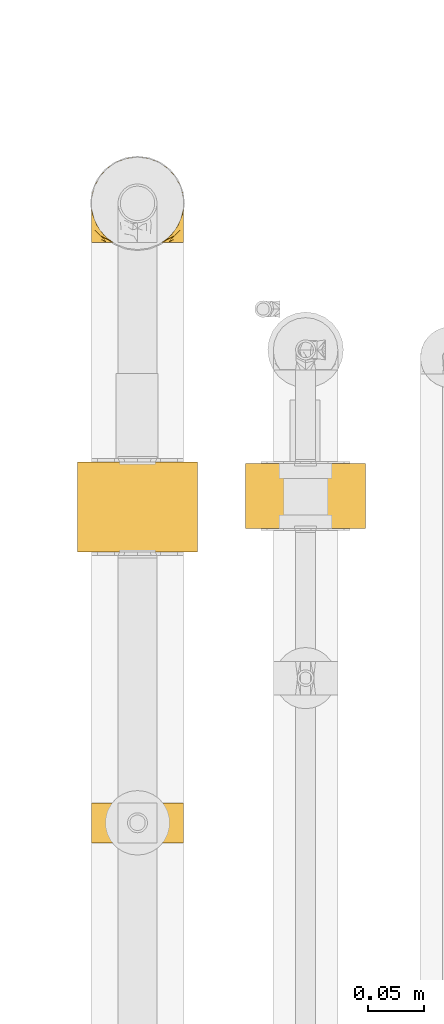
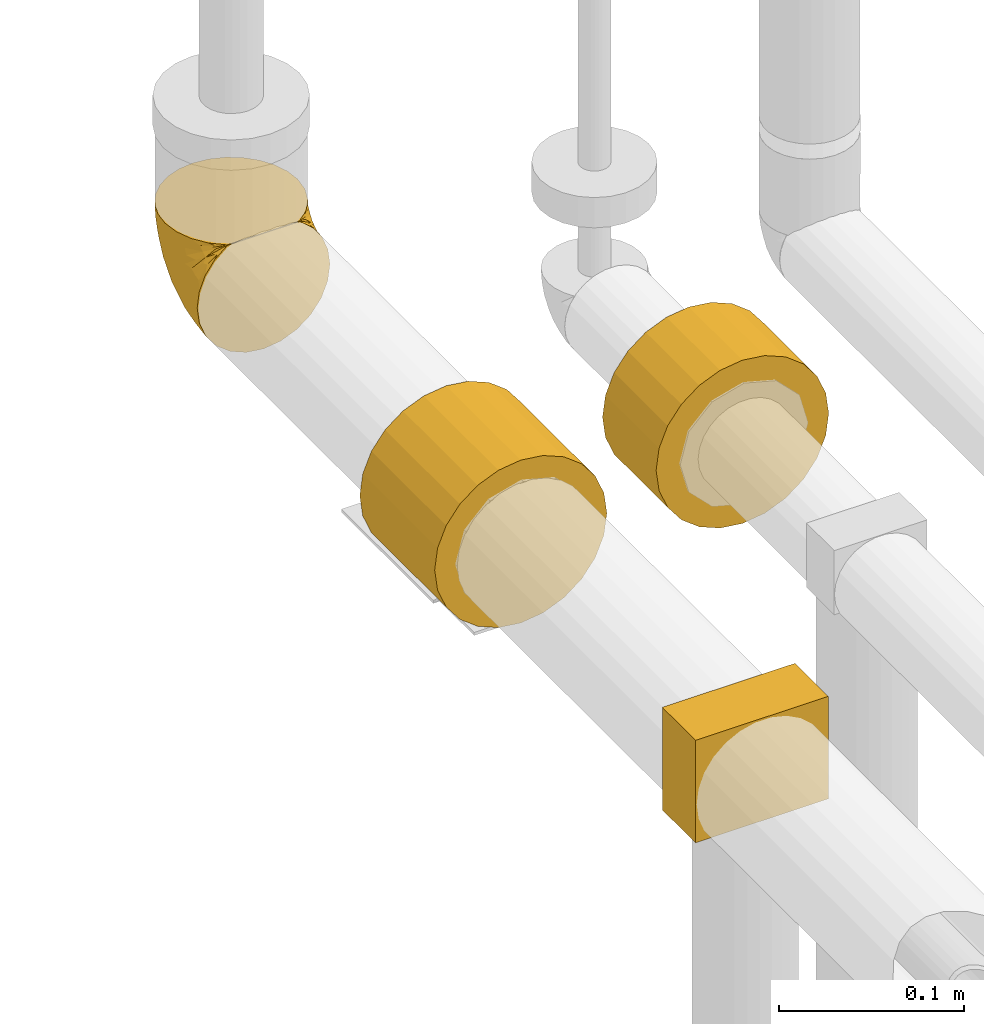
# One storey, part 9 of 78: 4 coverings.
"""IFC2X3 building model written with IfcOpenShell, lengths in millimetres."""

from ifc_helpers import new_model, entity, si_unit, converted_unit, derived_unit, direction, frame, origin_with_axes, place, context, subcontext, project, spatial, open_shell, surface_model, source, transform, mapped, element, save


model = new_model("IFC2X3")

# Units and contexts
model_context = context("Model", 3, precision=0.01, world=frame((0.0, 4.29681676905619e-09, 0.0)), true_north=direction((4.01073788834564e-13, 1.0)))
plan_context = context("Plan", 3, precision=0.01, world=frame((0.0, 4.29681676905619e-09, 0.0)), true_north=direction((4.01073788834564e-13, 1.0)))
body_context = subcontext(model_context, "Body", "Model", "MODEL_VIEW")
ifc_project = project(units=[converted_unit("PLANEANGLEUNIT", "DEGREE", entity("IfcPositiveLengthMeasure", 0.0174532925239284), si_unit("PLANEANGLEUNIT", "RADIAN"), dimensions=[0, 0, 0, 0, 0, 0, 0]), si_unit("AREAUNIT", "SQUARE_METRE"), si_unit("LENGTHUNIT", "METRE", prefix="MILLI"), si_unit("MASSUNIT", "GRAM", prefix="KILO"), si_unit("POWERUNIT", "WATT"), si_unit("PRESSUREUNIT", "PASCAL"), si_unit("FORCEUNIT", "NEWTON", prefix="KILO"), si_unit("ELECTRICVOLTAGEUNIT", "VOLT"), si_unit("ELECTRICCURRENTUNIT", "AMPERE"), si_unit("THERMODYNAMICTEMPERATUREUNIT", "DEGREE_CELSIUS"), si_unit("TIMEUNIT", "SECOND"), si_unit("VOLUMEUNIT", "CUBIC_METRE"), derived_unit("LINEARVELOCITYUNIT", [(si_unit("LENGTHUNIT", "METRE"), 1), (si_unit("TIMEUNIT", "SECOND"), -1)]), derived_unit("VOLUMETRICFLOWRATEUNIT", [(si_unit("VOLUMEUNIT", "CUBIC_METRE"), 1), (si_unit("TIMEUNIT", "SECOND"), -1)]), derived_unit("THERMALTRANSMITTANCEUNIT", [(si_unit("POWERUNIT", "WATT"), 1), (si_unit("THERMODYNAMICTEMPERATUREUNIT", "KELVIN"), -1), (si_unit("AREAUNIT", "SQUARE_METRE"), -1)]), derived_unit("SOUNDPRESSUREUNIT", [(si_unit("PRESSUREUNIT", "PASCAL"), 1)])], contexts=[model_context, plan_context])

# Site, building, storey
site_placement = place(None, frame((0.0, -4.29681676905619e-09, 0.0), z_axis=(0.0, 0.0, 1.0), x_axis=(1.0, 0.0, 0.0)))
site = spatial("IfcSite", under=ifc_project, at=site_placement, Name="ENGM", CompositionType="ELEMENT")
building_placement = place(site_placement, frame((0.0, 4.29681676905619e-09, 0.0), z_axis=(0.0, 0.0, 1.0), x_axis=(1.0, 0.0, 0.0)))
building = spatial("IfcBuilding", under=site, at=building_placement, Name="TH", CompositionType="ELEMENT")
storey_placement = place(building_placement, frame((0.0, 0.0, 205200.0), z_axis=(0.0, 0.0, 1.0), x_axis=(1.0, 0.0, 0.0)))
storey = spatial("IfcBuildingStorey", under=building, at=storey_placement, Name="Nivå D + 1,2 m", CompositionType="ELEMENT", Elevation=205200.0)

# Coverings
shared_shape_1 = source(origin_with_axes(), body_context, "Body", "SurfaceModel", [
    surface_model("IfcShellBasedSurfaceModel", [(-29.0, 13.9607, 52.10204), (-29.0, -13.9607, 52.10204), (-29.0, 0.0, 53.94), (-29.0, 38.14134, 38.14134), (-29.0, 26.97, 46.71341), (-29.0, 46.71341, 26.97), (-29.0, 53.94, 0.0), (-29.0, -38.14134, 38.14134), (-29.0, -26.97, 46.71341), (-29.0, -53.94, 0.0), (-29.0, -52.10204, -13.9607), (-29.0, -52.10204, 13.9607), (-29.0, -46.71341, 26.97), (-29.0, 52.10204, 13.9607), (-29.0, 52.10204, -13.9607), (-29.0, 46.71341, -26.97), (-29.0, 26.97, -46.71341), (-29.0, 13.9607, -52.10204), (-29.0, 38.14134, -38.14134), (-29.0, 0.0, -53.94), (-29.0, -46.71341, -26.97), (-29.0, -26.97, -46.71341), (-29.0, -38.14134, -38.14134), (-29.0, -13.9607, -52.10204), (-14.2, 53.94, 0.0), (13.0, 52.10204, 13.9607), (13.0, 46.71341, 26.97), (13.0, 53.94, 0.0), (13.0, 38.14134, 38.14134), (13.0, 26.97, 46.71341), (-14.2, 0.0, 53.94), (13.0, 13.9607, 52.10204), (13.0, 0.0, 53.94), (13.0, -13.9607, 52.10204), (13.0, -26.97, 46.71341), (13.0, -38.14134, 38.14134), (13.0, -46.71341, 26.97), (-14.2, -53.94, 0.0), (13.0, -52.10204, 13.9607), (13.0, -53.94, 0.0), (13.0, -52.10204, -13.9607), (13.0, -46.71341, -26.97), (13.0, -38.14134, -38.14134), (13.0, -26.97, -46.71341), (13.0, -13.9607, -52.10204), (-14.2, 0.0, -53.94), (13.0, 0.0, -53.94), (13.0, 13.9607, -52.10204), (13.0, 26.97, -46.71341), (13.0, 38.14134, -38.14134), (13.0, 46.71341, -26.97), (13.0, 52.10204, -13.9607), (29.0, -13.9607, 52.10204), (29.0, 13.9607, 52.10204), (29.0, 0.0, 53.94), (29.0, -38.14134, 38.14134), (29.0, -26.97, 46.71341), (29.0, -46.71341, 26.97), (29.0, -53.94, 0.0), (29.0, 38.14134, 38.14134), (29.0, 26.97, 46.71341), (29.0, 53.94, 0.0), (29.0, 52.10204, -13.9607), (29.0, 52.10204, 13.9607), (29.0, 46.71341, 26.97), (29.0, -52.10204, 13.9607), (29.0, -52.10204, -13.9607), (29.0, -46.71341, -26.97), (29.0, -26.97, -46.71341), (29.0, -13.9607, -52.10204), (29.0, -38.14134, -38.14134), (29.0, 0.0, -53.94), (29.0, 46.71341, -26.97), (29.0, 26.97, -46.71341), (29.0, 38.14134, -38.14134), (29.0, 13.9607, -52.10204)], [open_shell([[[0, 1, 2]], [[3, 0, 4]], [[5, 1, 3]], [[3, 1, 0]], [[5, 6, 1]], [[1, 7, 8]], [[9, 7, 10]], [[7, 11, 12]], [[11, 7, 9]], [[10, 7, 1]], [[5, 13, 6]], [[6, 14, 15]], [[10, 6, 15]], [[16, 17, 15]], [[16, 15, 18]], [[19, 15, 17]], [[20, 21, 22]], [[21, 20, 10]], [[10, 23, 21]], [[10, 15, 23]], [[15, 19, 23]], [[6, 10, 1]], [[24, 6, 13]], [[24, 13, 25]], [[26, 13, 5]], [[27, 24, 25]], [[25, 13, 26]], [[5, 28, 26]], [[5, 3, 28]], [[29, 3, 4]], [[29, 4, 0]], [[30, 0, 2]], [[29, 0, 31]], [[30, 32, 31]], [[0, 30, 31]], [[3, 29, 28]], [[30, 2, 1]], [[30, 1, 33]], [[34, 1, 8]], [[32, 30, 33]], [[34, 33, 1]], [[35, 34, 8]], [[8, 7, 35]], [[12, 36, 35]], [[12, 11, 36]], [[37, 11, 9]], [[36, 11, 38]], [[37, 39, 38]], [[11, 37, 38]], [[12, 35, 7]], [[37, 9, 10]], [[37, 10, 40]], [[41, 10, 20]], [[39, 37, 40]], [[41, 40, 10]], [[42, 41, 20]], [[20, 22, 42]], [[21, 43, 42]], [[21, 23, 44]], [[45, 23, 19]], [[43, 21, 44]], [[45, 46, 44]], [[23, 45, 44]], [[21, 42, 22]], [[45, 19, 17]], [[45, 17, 47]], [[48, 17, 16]], [[46, 45, 47]], [[48, 47, 17]], [[49, 48, 16]], [[16, 18, 49]], [[18, 15, 50]], [[14, 6, 24]], [[15, 14, 51]], [[50, 15, 51]], [[24, 27, 51]], [[14, 24, 51]], [[18, 50, 49]], [[52, 53, 54]], [[55, 52, 56]], [[57, 53, 55]], [[55, 53, 52]], [[57, 58, 53]], [[53, 59, 60]], [[61, 59, 62]], [[59, 63, 64]], [[63, 59, 61]], [[62, 59, 53]], [[57, 65, 58]], [[58, 66, 67]], [[62, 58, 67]], [[68, 69, 67]], [[68, 67, 70]], [[71, 67, 69]], [[72, 73, 74]], [[73, 72, 62]], [[62, 75, 73]], [[62, 67, 75]], [[67, 71, 75]], [[58, 62, 53]], [[38, 58, 65]], [[36, 65, 57]], [[39, 58, 38]], [[36, 38, 65]], [[35, 36, 57]], [[57, 55, 35]], [[34, 55, 56]], [[33, 56, 52]], [[34, 56, 33]], [[32, 33, 52]], [[54, 32, 52]], [[55, 34, 35]], [[31, 54, 53]], [[29, 53, 60]], [[32, 54, 31]], [[29, 31, 53]], [[28, 29, 60]], [[60, 59, 28]], [[26, 59, 64]], [[25, 64, 63]], [[26, 64, 25]], [[27, 25, 63]], [[61, 27, 63]], [[59, 26, 28]], [[51, 61, 62]], [[50, 62, 72]], [[27, 61, 51]], [[50, 51, 62]], [[49, 50, 72]], [[72, 74, 49]], [[48, 74, 73]], [[47, 73, 75]], [[48, 73, 47]], [[46, 47, 75]], [[71, 46, 75]], [[74, 48, 49]], [[44, 71, 69]], [[43, 69, 68]], [[46, 71, 44]], [[43, 44, 69]], [[42, 43, 68]], [[68, 70, 42]], [[41, 70, 67]], [[40, 67, 66]], [[41, 67, 40]], [[39, 40, 66]], [[58, 39, 66]], [[70, 41, 42]]])]),
])
covering_1_placement = place(storey_placement, frame((895520.48466, 478417.98509, 4450.0), z_axis=(0.0, 3.999999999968e-06, -0.999999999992), x_axis=(0.0, 0.999999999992, 3.999999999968e-06)))
element("IfcCovering", 1, at=covering_1_placement, inside=storey, Name="Rørskål m/Al.folje - Varme 55 (uisolert oppheng)", PredefinedType="INSULATION", context=body_context, shape_type="MappedRepresentation", body=[
    mapped(shared_shape_1, transform((0.0, 0.0, 0.0), scale=1.0)),
])
shared_shape_2 = source(origin_with_axes(), body_context, "Body", "SurfaceModel", [
    surface_model("IfcShellBasedSurfaceModel", [(-40.5, 13.92964, 51.98613), (-40.5, -13.92964, 51.98613), (-40.5, 0.0, 53.82), (-40.5, 51.98613, 13.92964), (-40.5, 26.91, 46.60949), (-40.5, 38.05649, 38.05649), (-40.5, 46.60949, 26.91), (-40.5, -26.91, 46.60949), (-40.5, -51.98613, 13.92964), (-40.5, -38.05649, 38.05649), (-40.5, -46.60949, 26.91), (-40.5, -51.98613, -13.92964), (-40.5, -53.82, 0.0), (-40.5, 51.98613, -13.92964), (-40.5, -13.92964, -51.98613), (-40.5, 53.82, 0.0), (-40.5, 13.92964, -51.98613), (-40.5, 46.60949, -26.91), (-40.5, 26.91, -46.60949), (-40.5, 38.05649, -38.05649), (-40.5, 0.0, -53.82), (-40.5, -38.05649, -38.05649), (-40.5, -46.60949, -26.91), (-40.5, -26.91, -46.60949), (-1.1, 53.82, 0.0), (-0.5, 51.98613, 13.92964), (-0.5, 46.60949, 26.91), (-0.5, 53.82, 0.0), (-0.5, 38.05649, 38.05649), (-0.5, 26.91, 46.60949), (-1.1, 0.0, 53.82), (-0.5, 13.92964, 51.98613), (-0.5, 0.0, 53.82), (-0.5, -13.92964, 51.98613), (-0.5, -26.91, 46.60949), (-0.5, -38.05649, 38.05649), (-0.5, -46.60949, 26.91), (-0.5, -51.98613, 13.92964), (-1.1, -53.82, 0.0), (-0.5, -53.82, 0.0), (-0.5, -51.98613, -13.92964), (-0.5, -46.60949, -26.91), (-0.5, -38.05649, -38.05649), (-0.5, -26.91, -46.60949), (-1.1, 0.0, -53.82), (-0.5, -13.92964, -51.98613), (-0.5, 0.0, -53.82), (-0.5, 13.92964, -51.98613), (-0.5, 26.91, -46.60949), (-0.5, 38.05649, -38.05649), (-0.5, 46.60949, -26.91), (-0.5, 51.98613, -13.92964), (40.5, -13.92964, 51.98613), (40.5, 13.92964, 51.98613), (40.5, 0.0, 53.82), (40.5, -51.98613, 13.92964), (40.5, -26.91, 46.60949), (40.5, -38.05649, 38.05649), (40.5, -46.60949, 26.91), (40.5, 26.91, 46.60949), (40.5, 51.98613, 13.92964), (40.5, 38.05649, 38.05649), (40.5, 46.60949, 26.91), (40.5, 51.98613, -13.92964), (40.5, 53.82, 0.0), (40.5, -51.98613, -13.92964), (40.5, 13.92964, -51.98613), (40.5, -53.82, 0.0), (40.5, -13.92964, -51.98613), (40.5, -46.60949, -26.91), (40.5, -26.91, -46.60949), (40.5, -38.05649, -38.05649), (40.5, 0.0, -53.82), (40.5, 38.05649, -38.05649), (40.5, 46.60949, -26.91), (40.5, 26.91, -46.60949)], [open_shell([[[0, 1, 2]], [[3, 0, 4]], [[5, 6, 3]], [[5, 3, 4]], [[1, 0, 3]], [[7, 8, 9]], [[8, 7, 1]], [[9, 8, 10]], [[1, 3, 8]], [[8, 11, 12]], [[8, 3, 11]], [[13, 14, 15]], [[16, 13, 17]], [[18, 16, 17]], [[18, 17, 19]], [[20, 13, 16]], [[11, 21, 22]], [[21, 11, 23]], [[15, 23, 11]], [[15, 14, 23]], [[13, 20, 14]], [[15, 11, 3]], [[24, 15, 3]], [[24, 3, 25]], [[26, 3, 6]], [[27, 24, 25]], [[26, 25, 3]], [[28, 26, 6]], [[6, 5, 28]], [[29, 5, 4]], [[4, 0, 29]], [[2, 30, 0]], [[29, 0, 31]], [[30, 32, 31]], [[0, 30, 31]], [[5, 29, 28]], [[30, 2, 1]], [[30, 1, 33]], [[34, 1, 7]], [[32, 30, 33]], [[34, 33, 1]], [[35, 34, 7]], [[7, 9, 35]], [[10, 36, 35]], [[10, 8, 37]], [[38, 8, 12]], [[36, 10, 37]], [[38, 39, 37]], [[8, 38, 37]], [[10, 35, 9]], [[38, 12, 11]], [[38, 11, 40]], [[41, 11, 22]], [[39, 38, 40]], [[41, 40, 11]], [[42, 41, 22]], [[22, 21, 42]], [[43, 21, 23]], [[14, 20, 44]], [[43, 23, 14]], [[43, 14, 45]], [[44, 46, 45]], [[14, 44, 45]], [[21, 43, 42]], [[44, 20, 16]], [[44, 16, 47]], [[48, 16, 18]], [[46, 44, 47]], [[48, 47, 16]], [[49, 48, 18]], [[18, 19, 49]], [[50, 19, 17]], [[13, 15, 24]], [[51, 17, 13]], [[50, 17, 51]], [[24, 27, 51]], [[13, 24, 51]], [[19, 50, 49]], [[52, 53, 54]], [[55, 52, 56]], [[57, 58, 55]], [[57, 55, 56]], [[53, 52, 55]], [[59, 60, 61]], [[60, 59, 53]], [[61, 60, 62]], [[53, 55, 60]], [[60, 63, 64]], [[60, 55, 63]], [[65, 66, 67]], [[68, 65, 69]], [[70, 68, 69]], [[70, 69, 71]], [[72, 65, 68]], [[63, 73, 74]], [[73, 63, 75]], [[67, 75, 63]], [[67, 66, 75]], [[65, 72, 66]], [[67, 63, 55]], [[37, 67, 55]], [[36, 55, 58]], [[39, 67, 37]], [[36, 37, 55]], [[35, 36, 58]], [[58, 57, 35]], [[34, 56, 52]], [[33, 52, 54]], [[57, 34, 35]], [[57, 56, 34]], [[34, 52, 33]], [[54, 32, 33]], [[31, 54, 53]], [[29, 53, 59]], [[32, 54, 31]], [[29, 31, 53]], [[28, 29, 59]], [[59, 61, 28]], [[60, 64, 25]], [[26, 28, 62]], [[62, 60, 26]], [[26, 60, 25]], [[64, 27, 25]], [[62, 28, 61]], [[51, 64, 63]], [[50, 63, 74]], [[27, 64, 51]], [[50, 51, 63]], [[49, 50, 74]], [[74, 73, 49]], [[66, 72, 47]], [[48, 75, 47]], [[75, 48, 73]], [[47, 75, 66]], [[72, 46, 47]], [[73, 48, 49]], [[45, 72, 68]], [[43, 68, 70]], [[46, 72, 45]], [[43, 45, 68]], [[42, 43, 70]], [[70, 71, 42]], [[71, 69, 41]], [[41, 65, 40]], [[65, 41, 69]], [[39, 40, 65]], [[65, 67, 39]], [[71, 41, 42]]])]),
])
covering_2_placement = place(storey_placement, frame((895369.5, 478407.95641, 4450.0), z_axis=(0.0, 3.999999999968e-06, -0.999999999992), x_axis=(0.0, 0.999999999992, 3.999999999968e-06)))
element("IfcCovering", 2, at=covering_2_placement, inside=storey, Name="BI20T - Cellegummi 13 mm kalde rør", PredefinedType="INSULATION", context=body_context, shape_type="MappedRepresentation", body=[
    mapped(shared_shape_2, transform((0.0, 0.0, 0.0), scale=1.0)),
])
shared_shape_3 = source(origin_with_axes(), body_context, "Body", "SurfaceModel", [
    surface_model("IfcShellBasedSurfaceModel", [(-18.0, 41.5, 41.5), (18.0, 41.5, 41.5), (-18.0, 41.5, -41.5), (18.0, 41.5, -41.5), (-18.0, -26.25, -41.5), (18.0, -26.25, -41.5), (-18.0, -26.25, 41.5), (18.0, -26.25, 41.5)], [open_shell([[[0, 1, 2]], [[3, 2, 1]], [[4, 5, 6]], [[7, 6, 5]], [[3, 1, 7]], [[7, 5, 3]], [[2, 3, 4]], [[5, 4, 3]], [[0, 2, 4]], [[4, 6, 0]], [[1, 0, 7]], [[6, 7, 0]]])]),
])
covering_3_placement = place(storey_placement, frame((895369.5, 478124.37013, 4450.0), z_axis=(1.0, 0.0, 0.0), x_axis=(0.0, 1.0, 0.0)))
element("IfcCovering", 3, at=covering_3_placement, inside=storey, Name="BI20T - Cellegummi 13 mm kalde rør", PredefinedType="INSULATION", context=body_context, shape_type="MappedRepresentation", body=[
    mapped(shared_shape_3, transform((0.0, 0.0, 0.0), scale=1.0)),
])
shared_shape_4 = source(origin_with_axes(), body_context, "Body", "SurfaceModel", [
    surface_model("IfcShellBasedSurfaceModel", [(18.01272, 35.0, 37.38706), (25.88116, 35.0, 32.44096), (32.45082, 35.0, 25.86878), (-34.77526, 35.0, -22.64798), (-10.20341, 35.0, 40.22611), (37.3931, 35.0, 18.00017), (0.0, 35.0, 41.5), (9.23923, 35.0, 40.45845), (-28.14065, 35.0, 30.5017), (-19.77898, 35.0, 36.48345), (-34.77526, 35.0, 22.64798), (40.46071, 35.0, 9.22935), (40.45845, 35.0, -9.23923), (32.44096, 35.0, -25.88116), (37.38706, 35.0, -18.01272), (25.86878, 35.0, -32.45082), (9.22935, 35.0, -40.46071), (18.00017, 35.0, -37.3931), (-19.77754, 35.0, -36.48423), (-28.13945, 35.0, -30.50281), (-10.20182, 35.0, -40.22652), (0.0, 35.0, -41.5), (41.5, 35.0, 0.0), (-35.0, 34.77526, -22.64798), (-35.0, 28.14035, -30.50198), (-35.0, 19.77826, -36.48384), (-35.0, 10.20222, -40.22642), (-35.0, 0.0, -41.5), (-35.0, 34.77526, 22.64798), (-35.0, -10.74099, -40.08592), (-35.0, 19.77826, 36.48384), (-35.0, 28.14035, 30.50198), (-35.0, 10.20222, 40.22642), (-35.0, -10.74099, 40.08592), (-35.0, 0.0, 41.5), (-35.0, -20.75, -35.94006), (-35.0, -35.94006, -20.75), (-35.0, -29.34493, -29.34493), (-35.0, -40.08592, 10.74099), (-35.0, -40.08592, -10.74099), (-35.0, -29.34493, 29.34493), (-35.0, -20.75, 35.94006), (-35.0, -35.94006, 20.75), (-35.0, -41.5, 0.0), (-34.84109, 34.84109, 22.64798), (-34.84109, 34.84109, -22.64798), (-31.64421, 15.39167, -38.65283), (-32.30655, 24.48475, -33.75287), (-27.62803, 16.52293, -38.65283), (-22.66177, 11.06119, -40.70807), (-17.5, 4.68911, -41.5), (-26.25, 2.34456, -41.5), (-16.52233, 27.62799, -38.65305), (-26.67126, 29.31483, -33.18807), (-24.48391, 32.30643, -33.75347), (-29.83814, 24.09272, -34.588), (-32.60004, 29.67626, -29.5284), (-27.75569, 9.28145, -40.66547), (-2.34456, 26.25, -41.5), (-11.06069, 22.6619, -40.70815), (-9.28112, 27.75578, -40.66554), (-23.93214, 18.44385, -38.66122), (-18.82795, 18.80671, -39.69251), (-15.39109, 31.64418, -38.65305), (-34.10257, 30.40075, -28.34273), (-30.40041, 34.10249, -28.34311), (-30.11227, 32.79735, -29.04801), (-34.80064, 34.93873, -22.64798), (-24.63119, 23.87481, -36.47636), (-34.93873, 34.80064, -22.64798), (-29.35712, 27.14751, -32.8729), (-31.63032, 32.35902, -27.90361), (-34.82086, 34.88991, -22.64798), (-18.46359, 23.9286, -38.65558), (-11.09456, 11.09456, -41.5), (-4.68911, 17.5, -41.5), (-34.88991, 34.82086, -22.64798), (27.83677, -5.85141, -11.24085), (36.82171, 16.48761, -13.71224), (35.67679, 5.72472, 0.0), (-22.86743, -6.62496, -40.64984), (-14.33903, -3.37223, -40.60316), (-3.92502, -15.84833, -33.42878), (-8.75932, -27.65077, -25.2636), (-19.40263, -23.21017, -32.92416), (-15.52855, -12.00825, -38.341), (-26.16455, -15.10836, -38.341), (17.27298, 12.08954, -35.14288), (21.0321, 24.14836, -35.14288), (27.30336, 18.94255, -29.35053), (-2.77145, 6.24147, -40.683), (-1.79804, 28.28963, -41.5), (25.04903, -4.75857, -18.75896), (-12.84078, -37.47165, -7.67715), (-15.9244, -35.81683, -15.88136), (38.52278, 20.03254, 0.0), (-23.05874, -31.86627, -25.2636), (14.91792, -14.6542, -21.64481), (20.81681, -3.31546, -25.55024), (5.24732, 10.54563, -39.69862), (12.15981, 22.84564, -39.17315), (33.85562, 21.66517, -22.08583), (6.20615, -4.51621, -35.1312), (-2.6613, -2.55281, -38.86273), (24.37797, 7.43419, -28.18078), (29.23604, 6.84605, -22.08583), (19.0594, -16.23966, -12.77633), (-3.17391, -30.78008, -16.5095), (0.72525, -31.45201, -9.29177), (8.68959, -24.37514, -14.9415), (13.12961, -23.6461, -7.21983), (19.09367, -19.09367, 0.0), (27.38523, -6.68448, 0.0), (-20.03254, -38.52278, 0.0), (3.73155, -20.28384, -25.80524), (10.84929, -10.13749, -29.35053), (-28.28963, 1.79804, -41.5), (16.35343, 1.13542, -31.92573), (10.96017, 4.30399, -36.21391), (-5.72472, -35.67679, 0.0), (6.68448, -27.38523, 0.0), (-21.76287, -14.12933, 38.341), (-12.85345, -37.43022, 7.90383), (11.84387, -22.42643, 13.88297), (27.85306, -5.82875, 11.23619), (27.31531, 18.94409, 29.33934), (33.86461, 21.66997, 22.07324), (-11.70817, -20.5805, 32.92416), (-17.88346, -30.73215, 25.2636), (0.65751, -23.60289, 24.35959), (17.28854, 12.09365, 35.13497), (21.04556, 24.1516, 35.13497), (12.17134, 22.84486, 39.16918), (19.93553, -9.81896, 20.82115), (-18.51493, -4.79847, 40.7063), (-17.5, 4.68911, 41.5), (-26.25, 2.34456, 41.5), (-1.79804, 28.28963, 41.5), (-21.93773, -37.8245, 14.22278), (-24.39922, -24.3239, 32.92416), (2.79451, -30.69957, 7.6178), (36.82733, 16.49349, 13.70088), (0.92762, -10.78806, 34.40886), (-12.95334, -10.19298, 38.5831), (29.24842, 6.85457, 22.07324), (-11.58566, -0.46749, 40.81683), (-3.83679, 4.32716, 40.57223), (-4.68911, 17.5, 41.5), (-11.09456, 11.09456, 41.5), (21.8032, 4.76185, 29.33965), (5.25045, 10.53124, 39.69553), (-26.9199, -7.06022, 40.75478), (10.87448, -10.12785, 29.33934), (8.44865, -0.34272, 35.78987), (-8.41843, -33.35439, 15.88136), (1.55905, -17.3782, 29.80727), (-5.11326, -4.75335, 38.7961), (-27.75569, 9.28145, 40.66547), (-27.62803, 16.52293, 38.65283), (-22.66177, 11.06119, 40.70807), (-34.10257, 30.40075, 28.34273), (-32.30655, 24.48475, 33.75287), (-31.64421, 15.39167, 38.65283), (-32.60004, 29.67626, 29.5284), (-9.28203, 27.75543, 40.66538), (-30.40098, 34.10263, 28.34248), (-24.48523, 32.30666, 33.75251), (-26.67272, 29.31579, 33.18675), (-16.52396, 27.62804, 38.65246), (-2.34456, 26.25, 41.5), (-11.06212, 22.66147, 40.70793), (-15.39265, 31.64413, 38.65246), (-34.93873, 34.80064, 22.64798), (-23.93199, 18.44467, 38.66099), (-18.82692, 18.80731, 39.6926), (-18.46401, 23.92901, 38.65536), (-24.63097, 23.87584, 36.47604), (-29.35712, 27.14751, 32.8729), (-29.83814, 24.09272, 34.588), (-34.80064, 34.93873, 22.64798), (-34.82086, 34.88991, 22.64798), (-31.63096, 32.35952, 27.90271), (-30.11227, 32.79749, 29.04795), (-34.88991, 34.82086, 22.64798)], [open_shell([[[0, 1, 2]], [[3, 4, 0]], [[5, 0, 2]], [[0, 5, 3]], [[6, 0, 4]], [[6, 7, 0]], [[4, 8, 9]], [[3, 8, 4]], [[8, 3, 10]], [[5, 11, 12]], [[3, 5, 12]], [[13, 12, 14]], [[12, 15, 16]], [[15, 12, 13]], [[17, 16, 15]], [[3, 18, 19]], [[18, 3, 20]], [[20, 16, 21]], [[16, 20, 3]], [[3, 12, 16]], [[12, 11, 22]], [[23, 24, 25]], [[25, 26, 27]], [[23, 25, 28]], [[29, 30, 25]], [[31, 28, 30]], [[25, 30, 28]], [[30, 29, 32]], [[32, 33, 34]], [[27, 29, 25]], [[29, 35, 36]], [[29, 36, 33]], [[36, 35, 37]], [[38, 36, 39]], [[33, 40, 41]], [[40, 33, 42]], [[36, 42, 33]], [[36, 38, 42]], [[39, 43, 38]], [[29, 33, 32]], [[23, 28, 44]], [[45, 23, 44]], [[10, 3, 44]], [[45, 44, 3]], [[46, 47, 48]], [[49, 50, 51]], [[52, 53, 54]], [[55, 47, 56]], [[51, 57, 49]], [[58, 59, 60]], [[25, 46, 26]], [[61, 62, 49]], [[46, 57, 26]], [[52, 60, 59]], [[18, 20, 63]], [[26, 57, 27]], [[24, 64, 47]], [[65, 66, 67]], [[18, 63, 54]], [[19, 65, 3]], [[21, 58, 60]], [[64, 56, 47]], [[62, 61, 68]], [[60, 52, 63]], [[18, 54, 19]], [[23, 69, 64]], [[70, 55, 56]], [[47, 25, 24]], [[65, 19, 54]], [[45, 71, 70]], [[72, 67, 66]], [[59, 73, 52]], [[62, 74, 49]], [[47, 46, 25]], [[57, 46, 48]], [[57, 48, 49]], [[57, 51, 27]], [[61, 49, 48]], [[59, 74, 62]], [[55, 61, 48]], [[68, 61, 70]], [[70, 53, 68]], [[73, 68, 53]], [[20, 21, 60]], [[54, 63, 52]], [[20, 60, 63]], [[59, 58, 75]], [[73, 59, 62]], [[68, 73, 62]], [[53, 52, 73]], [[23, 64, 24]], [[76, 56, 69]], [[70, 76, 45]], [[69, 56, 64]], [[76, 70, 56]], [[61, 55, 70]], [[48, 47, 55]], [[71, 45, 72]], [[3, 65, 67]], [[66, 54, 53]], [[54, 66, 65]], [[66, 53, 71]], [[66, 71, 72]], [[70, 71, 53]], [[74, 59, 75]], [[50, 49, 74]], [[77, 78, 79]], [[80, 50, 81]], [[82, 83, 84]], [[85, 86, 80]], [[87, 88, 89]], [[74, 90, 81]], [[91, 21, 16]], [[78, 77, 92]], [[93, 39, 94]], [[78, 12, 95]], [[96, 36, 37]], [[35, 86, 84]], [[35, 84, 37]], [[36, 96, 94]], [[86, 35, 29]], [[97, 98, 92]], [[99, 75, 100]], [[91, 16, 100]], [[13, 14, 101]], [[89, 15, 13]], [[100, 75, 91]], [[100, 16, 17]], [[88, 100, 17]], [[102, 82, 103]], [[100, 87, 99]], [[104, 105, 98]], [[104, 89, 105]], [[97, 92, 106]], [[93, 107, 108]], [[78, 14, 12]], [[79, 78, 95]], [[105, 101, 78]], [[36, 94, 39]], [[101, 89, 13]], [[109, 110, 108]], [[15, 88, 17]], [[107, 109, 108]], [[111, 77, 112]], [[39, 93, 113]], [[97, 114, 115]], [[81, 90, 103]], [[82, 84, 85]], [[96, 84, 83]], [[29, 27, 116]], [[87, 117, 118]], [[99, 103, 90]], [[12, 22, 95]], [[78, 101, 14]], [[89, 101, 105]], [[89, 88, 15]], [[100, 88, 87]], [[103, 82, 85]], [[82, 115, 114]], [[81, 85, 80]], [[117, 102, 118]], [[113, 93, 119]], [[113, 43, 39]], [[110, 111, 120]], [[120, 119, 108]], [[93, 108, 119]], [[106, 110, 109]], [[120, 108, 110]], [[107, 93, 94]], [[94, 83, 107]], [[114, 107, 83]], [[97, 106, 109]], [[106, 77, 111]], [[109, 107, 114]], [[98, 97, 115]], [[109, 114, 97]], [[82, 114, 83]], [[117, 98, 115]], [[92, 98, 105]], [[102, 117, 115]], [[104, 87, 89]], [[82, 102, 115]], [[118, 103, 99]], [[78, 92, 105]], [[92, 77, 106]], [[98, 117, 104]], [[87, 104, 117]], [[103, 118, 102]], [[99, 90, 75]], [[99, 87, 118]], [[84, 96, 37]], [[94, 96, 83]], [[80, 29, 116]], [[84, 86, 85]], [[29, 80, 86]], [[50, 80, 116]], [[74, 81, 50]], [[103, 85, 81]], [[77, 79, 112]], [[111, 110, 106]], [[75, 90, 74]], [[41, 121, 33]], [[119, 122, 113]], [[123, 111, 124]], [[122, 38, 113]], [[125, 126, 2]], [[127, 128, 129]], [[130, 131, 132]], [[133, 129, 123]], [[134, 135, 136]], [[7, 137, 132]], [[138, 128, 42]], [[7, 6, 137]], [[40, 139, 41]], [[41, 139, 121]], [[0, 7, 132]], [[111, 123, 140]], [[124, 79, 141]], [[127, 142, 143]], [[144, 126, 125]], [[1, 125, 2]], [[38, 122, 138]], [[141, 5, 126]], [[141, 95, 11]], [[1, 0, 131]], [[134, 145, 135]], [[146, 147, 148]], [[149, 144, 125]], [[130, 132, 150]], [[132, 147, 150]], [[5, 141, 11]], [[42, 128, 40]], [[131, 125, 1]], [[124, 141, 144]], [[149, 125, 130]], [[124, 133, 123]], [[5, 2, 126]], [[124, 111, 112]], [[147, 132, 137]], [[121, 134, 151]], [[152, 153, 142]], [[153, 130, 150]], [[129, 128, 154]], [[139, 128, 127]], [[148, 145, 146]], [[153, 152, 149]], [[123, 129, 154]], [[155, 152, 142]], [[122, 140, 154]], [[124, 144, 133]], [[95, 141, 79]], [[95, 22, 11]], [[33, 151, 34]], [[141, 126, 144]], [[132, 131, 0]], [[125, 131, 130]], [[146, 153, 150]], [[145, 148, 135]], [[142, 153, 156]], [[38, 43, 113]], [[140, 122, 119]], [[122, 154, 138]], [[140, 119, 120]], [[154, 140, 123]], [[128, 138, 154]], [[42, 38, 138]], [[151, 134, 136]], [[143, 134, 121]], [[149, 133, 144]], [[111, 140, 120]], [[129, 133, 152]], [[34, 151, 136]], [[121, 151, 33]], [[153, 149, 130]], [[133, 149, 152]], [[143, 142, 156]], [[155, 127, 129]], [[128, 139, 40]], [[121, 139, 127]], [[127, 143, 121]], [[145, 143, 156]], [[143, 145, 134]], [[145, 156, 146]], [[153, 146, 156]], [[147, 146, 150]], [[127, 155, 142]], [[129, 152, 155]], [[112, 79, 124]], [[34, 136, 157]], [[158, 157, 159]], [[160, 31, 161]], [[30, 162, 161]], [[163, 160, 161]], [[4, 164, 6]], [[8, 165, 166]], [[32, 162, 30]], [[28, 31, 160]], [[167, 168, 166]], [[169, 164, 170]], [[30, 161, 31]], [[157, 158, 162]], [[9, 171, 4]], [[160, 163, 172]], [[168, 171, 166]], [[171, 164, 4]], [[158, 159, 173]], [[174, 170, 175]], [[176, 177, 173]], [[178, 177, 163]], [[10, 179, 165]], [[136, 159, 157]], [[166, 9, 8]], [[180, 181, 182]], [[165, 182, 166]], [[177, 167, 181]], [[159, 135, 148]], [[147, 169, 170]], [[32, 34, 157]], [[161, 162, 158]], [[32, 157, 162]], [[159, 136, 135]], [[147, 170, 148]], [[173, 159, 174]], [[176, 173, 174]], [[178, 173, 177]], [[175, 176, 174]], [[167, 177, 176]], [[166, 171, 9]], [[164, 171, 168]], [[164, 168, 170]], [[164, 169, 6]], [[175, 170, 168]], [[170, 174, 148]], [[168, 167, 175]], [[176, 175, 167]], [[177, 44, 183]], [[28, 160, 172]], [[161, 178, 163]], [[177, 183, 163]], [[172, 163, 183]], [[161, 158, 178]], [[173, 178, 158]], [[10, 165, 8]], [[165, 179, 182]], [[181, 180, 44]], [[180, 182, 179]], [[166, 182, 167]], [[177, 181, 44]], [[182, 181, 167]], [[159, 148, 174]]])]),
])
covering_4_placement = place(storey_placement, frame((895369.5, 478680.9125, 4450.0), z_axis=(1.0, 0.0, 0.0), x_axis=(0.0, 1.0, 0.0)))
element("IfcCovering", 4, at=covering_4_placement, inside=storey, Name="BI20T - Cellegummi 13 mm kalde rør", PredefinedType="INSULATION", context=body_context, shape_type="MappedRepresentation", body=[
    mapped(shared_shape_4, transform((0.0, 0.0, 0.0), scale=1.0)),
])

save(model, "model.ifc")
